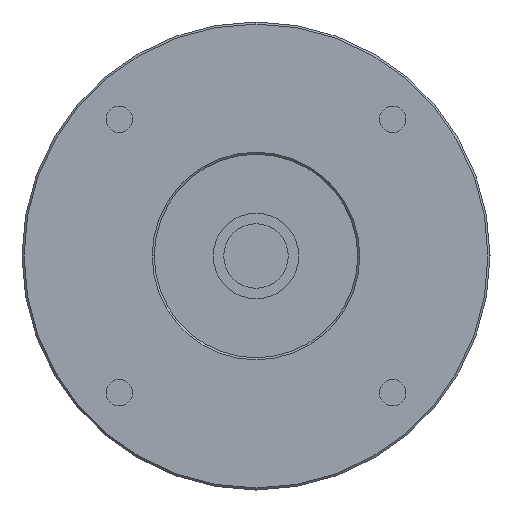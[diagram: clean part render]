
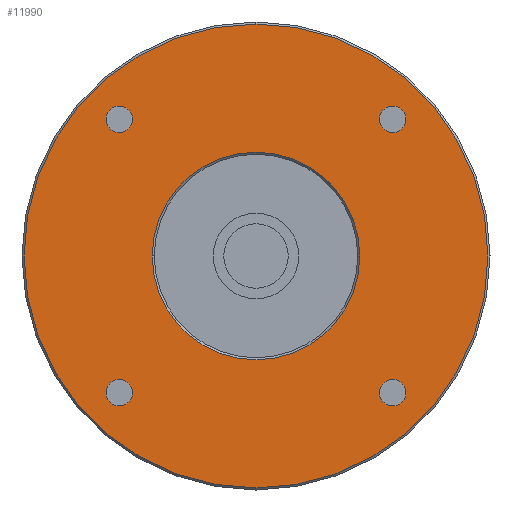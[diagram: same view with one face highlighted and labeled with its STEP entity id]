
A CAD part, left-side view. The second image highlights one B-rep face of the part: STEP entity #11990.
In plain terms, the highlighted planar face has unit normal (-1, 0, 0) as drawn and (0, 0, -1) by its records, which use the part's own axes.
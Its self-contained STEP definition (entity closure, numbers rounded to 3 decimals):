
#8800=CARTESIAN_POINT('',(-30.338,33.588,-47.4));
#8810=VERTEX_POINT('',#8800);
#8840=CARTESIAN_POINT('',(-33.588,33.588,-47.4));
#8850=DIRECTION('',(0.,0.,-1.));
#8860=DIRECTION('',(1.,0.,0.));
#8870=AXIS2_PLACEMENT_3D('',#8840,#8850,#8860);
#8880=CIRCLE('',#8870,3.25);
#8890=CARTESIAN_POINT('',(-36.838,33.588,-47.4));
#8900=VERTEX_POINT('',#8890);
#8910=EDGE_CURVE('',#8900,#8810,#8880,.T.);
#9220=CARTESIAN_POINT('',(-30.338,-33.588,-47.4));
#9230=VERTEX_POINT('',#9220);
#9260=CARTESIAN_POINT('',(-33.588,-33.588,-47.4));
#9270=DIRECTION('',(0.,0.,-1.));
#9280=DIRECTION('',(1.,0.,0.));
#9290=AXIS2_PLACEMENT_3D('',#9260,#9270,#9280);
#9300=CIRCLE('',#9290,3.25);
#9310=CARTESIAN_POINT('',(-36.838,-33.588,-47.4));
#9320=VERTEX_POINT('',#9310);
#9330=EDGE_CURVE('',#9320,#9230,#9300,.T.);
#11060=CARTESIAN_POINT('',(0.,57.,-47.4));
#11070=VERTEX_POINT('',#11060);
#11100=CARTESIAN_POINT('',(0.,0.,
-47.4));
#11110=DIRECTION('',(0.,0.,-1.));
#11120=DIRECTION('',(1.,0.,0.));
#11130=AXIS2_PLACEMENT_3D('',#11100,#11110,#11120);
#11140=CIRCLE('',#11130,57.);
#11150=CARTESIAN_POINT('',(57.,0.,-47.4));
#11160=VERTEX_POINT('',#11150);
#11170=EDGE_CURVE('',#11070,#11160,#11140,.T.);
#11190=CARTESIAN_POINT('',(0.,-57.,-47.4));
#11200=VERTEX_POINT('',#11190);
#11210=EDGE_CURVE('',#11160,#11200,#11140,.T.);
#11330=CARTESIAN_POINT('',(0.,0.,
-47.4));
#11340=DIRECTION('',(0.,0.,-1.));
#11350=DIRECTION('',(1.,0.,0.));
#11360=AXIS2_PLACEMENT_3D('',#11330,#11340,#11350);
#11370=PLANE('',#11360);
#11380=EDGE_CURVE('',#11200,#11070,#11140,.T.);
#11390=ORIENTED_EDGE('',*,*,#11380,.T.);
#11400=ORIENTED_EDGE('',*,*,#11210,.T.);
#11410=ORIENTED_EDGE('',*,*,#11170,.T.);
#11420=EDGE_LOOP('',(#11410,#11400,#11390));
#11430=FACE_OUTER_BOUND('',#11420,.T.);
#11440=CARTESIAN_POINT('',(0.,0.,
-47.4));
#11450=DIRECTION('',(0.,0.,-1.));
#11460=DIRECTION('',(1.,0.,0.));
#11470=AXIS2_PLACEMENT_3D('',#11440,#11450,#11460);
#11480=CIRCLE('',#11470,25.5);
#11490=CARTESIAN_POINT('',(25.5,0.,-47.4));
#11500=VERTEX_POINT('',#11490);
#11510=CARTESIAN_POINT('',(-25.5,0.,-47.4));
#11520=VERTEX_POINT('',#11510);
#11530=EDGE_CURVE('',#11500,#11520,#11480,.T.);
#11540=ORIENTED_EDGE('',*,*,#11530,.F.);
#11550=EDGE_CURVE('',#11520,#11500,#11480,.T.);
#11560=ORIENTED_EDGE('',*,*,#11550,.F.);
#11570=EDGE_LOOP('',(#11560,#11540));
#11580=FACE_BOUND('',#11570,.T.);
#11590=CARTESIAN_POINT('',(33.588,-33.588,-47.4));
#11600=DIRECTION('',(0.,0.,-1.));
#11610=DIRECTION('',(1.,0.,0.));
#11620=AXIS2_PLACEMENT_3D('',#11590,#11600,#11610);
#11630=CIRCLE('',#11620,3.25);
#11640=CARTESIAN_POINT('',(36.838,-33.588,-47.4));
#11650=VERTEX_POINT('',#11640);
#11660=CARTESIAN_POINT('',(30.338,-33.588,-47.4));
#11670=VERTEX_POINT('',#11660);
#11680=EDGE_CURVE('',#11650,#11670,#11630,.T.);
#11690=ORIENTED_EDGE('',*,*,#11680,.F.);
#11700=EDGE_CURVE('',#11670,#11650,#11630,.T.);
#11710=ORIENTED_EDGE('',*,*,#11700,.F.);
#11720=EDGE_LOOP('',(#11710,#11690));
#11730=FACE_BOUND('',#11720,.T.);
#11740=CARTESIAN_POINT('',(33.588,33.588,-47.4));
#11750=DIRECTION('',(0.,0.,-1.));
#11760=DIRECTION('',(1.,0.,0.));
#11770=AXIS2_PLACEMENT_3D('',#11740,#11750,#11760);
#11780=CIRCLE('',#11770,3.25);
#11790=CARTESIAN_POINT('',(36.838,33.588,-47.4));
#11800=VERTEX_POINT('',#11790);
#11810=CARTESIAN_POINT('',(30.338,33.588,-47.4));
#11820=VERTEX_POINT('',#11810);
#11830=EDGE_CURVE('',#11800,#11820,#11780,.T.);
#11840=ORIENTED_EDGE('',*,*,#11830,.F.);
#11850=EDGE_CURVE('',#11820,#11800,#11780,.T.);
#11860=ORIENTED_EDGE('',*,*,#11850,.F.);
#11870=EDGE_LOOP('',(#11860,#11840));
#11880=FACE_BOUND('',#11870,.T.);
#11890=EDGE_CURVE('',#8810,#8900,#8880,.T.);
#11900=ORIENTED_EDGE('',*,*,#11890,.F.);
#11910=ORIENTED_EDGE('',*,*,#8910,.F.);
#11920=EDGE_LOOP('',(#11910,#11900));
#11930=FACE_BOUND('',#11920,.T.);
#11940=EDGE_CURVE('',#9230,#9320,#9300,.T.);
#11950=ORIENTED_EDGE('',*,*,#11940,.F.);
#11960=ORIENTED_EDGE('',*,*,#9330,.F.);
#11970=EDGE_LOOP('',(#11960,#11950));
#11980=FACE_BOUND('',#11970,.T.);
#11990=ADVANCED_FACE('',(#11430,#11580,#11730,#11880,#11930,#11980),
#11370,.T.);
